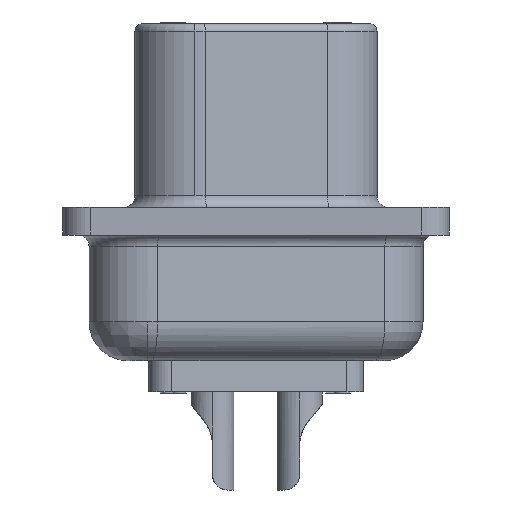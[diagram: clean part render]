
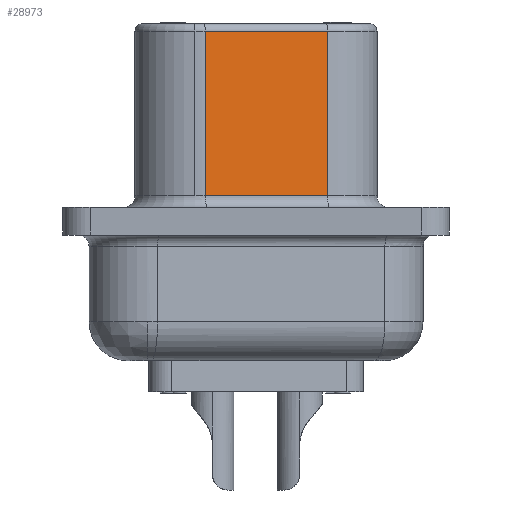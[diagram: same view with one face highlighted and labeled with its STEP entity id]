
A CAD part, left-side view. The second image highlights one B-rep face of the part: STEP entity #28973.
In plain terms, the highlighted planar face has unit normal (-0.985, -0.174, 0).
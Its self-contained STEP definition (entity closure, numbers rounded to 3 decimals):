
#3394 = VERTEX_POINT('',#3395);
#3395 = CARTESIAN_POINT('',(7.25,7.955,5.746));
#3410 = CYLINDRICAL_SURFACE('',#3411,1.956);
#3411 = AXIS2_PLACEMENT_3D('',#3412,#3413,#3414);
#3412 = CARTESIAN_POINT('',(9.176,8.294,6.));
#3413 = DIRECTION('',(-0.,-0.,-1.));
#3414 = DIRECTION('',(-1.,0.,0.));
#3437 = CYLINDRICAL_SURFACE('',#3438,0.254);
#3438 = AXIS2_PLACEMENT_3D('',#3439,#3440,#3441);
#3439 = CARTESIAN_POINT('',(8.203,4.01,5.746));
#3440 = DIRECTION('',(0.174,-0.985,0.));
#3441 = DIRECTION('',(0.985,0.174,0.));
#3598 = VERTEX_POINT('',#3599);
#3599 = CARTESIAN_POINT('',(7.25,7.955,0.381));
#3626 = EDGE_CURVE('',#3394,#3598,#3627,.T.);
#3627 = SURFACE_CURVE('',#3628,(#3632,#3639),.PCURVE_S1.);
#3628 = LINE('',#3629,#3630);
#3629 = CARTESIAN_POINT('',(7.25,7.955,6.));
#3630 = VECTOR('',#3631,1.);
#3631 = DIRECTION('',(-0.,-0.,-1.));
#3632 = PCURVE('',#3410,#3633);
#3633 = DEFINITIONAL_REPRESENTATION('',(#3634),#3638);
#3634 = LINE('',#3635,#3636);
#3635 = CARTESIAN_POINT('',(6.109,0.));
#3636 = VECTOR('',#3637,1.);
#3637 = DIRECTION('',(0.,1.));
#3638 = ( GEOMETRIC_REPRESENTATION_CONTEXT(2) 
PARAMETRIC_REPRESENTATION_CONTEXT() REPRESENTATION_CONTEXT('2D SPACE',''
  ) );
#3639 = PCURVE('',#3640,#3645);
#3640 = PLANE('',#3641);
#3641 = AXIS2_PLACEMENT_3D('',#3642,#3643,#3644);
#3642 = CARTESIAN_POINT('',(7.953,3.966,6.));
#3643 = DIRECTION('',(0.985,0.174,-0.));
#3644 = DIRECTION('',(-0.174,0.985,0.));
#3645 = DEFINITIONAL_REPRESENTATION('',(#3646),#3650);
#3646 = LINE('',#3647,#3648);
#3647 = CARTESIAN_POINT('',(4.05,0.));
#3648 = VECTOR('',#3649,1.);
#3649 = DIRECTION('',(0.,-1.));
#3650 = ( GEOMETRIC_REPRESENTATION_CONTEXT(2) 
PARAMETRIC_REPRESENTATION_CONTEXT() REPRESENTATION_CONTEXT('2D SPACE',''
  ) );
#27473 = CYLINDRICAL_SURFACE('',#27474,0.381);
#27474 = AXIS2_PLACEMENT_3D('',#27475,#27476,#27477);
#27475 = CARTESIAN_POINT('',(7.578,3.9,0.381));
#27476 = DIRECTION('',(0.174,-0.985,0.));
#27477 = DIRECTION('',(0.985,0.174,0.));
#28448 = EDGE_CURVE('',#28449,#28451,#28453,.T.);
#28449 = VERTEX_POINT('',#28450);
#28450 = CARTESIAN_POINT('',(7.953,3.966,5.746));
#28451 = VERTEX_POINT('',#28452);
#28452 = CARTESIAN_POINT('',(7.953,3.966,0.381));
#28453 = SURFACE_CURVE('',#28454,(#28458,#28470),.PCURVE_S1.);
#28454 = LINE('',#28455,#28456);
#28455 = CARTESIAN_POINT('',(7.953,3.966,6.));
#28456 = VECTOR('',#28457,1.);
#28457 = DIRECTION('',(-0.,-0.,-1.));
#28458 = PCURVE('',#28459,#28464);
#28459 = CYLINDRICAL_SURFACE('',#28460,1.956);
#28460 = AXIS2_PLACEMENT_3D('',#28461,#28462,#28463);
#28461 = CARTESIAN_POINT('',(9.879,4.306,6.));
#28462 = DIRECTION('',(-0.,-0.,-1.));
#28463 = DIRECTION('',(-1.,0.,0.));
#28464 = DEFINITIONAL_REPRESENTATION('',(#28465),#28469);
#28465 = LINE('',#28466,#28467);
#28466 = CARTESIAN_POINT('',(6.109,0.));
#28467 = VECTOR('',#28468,1.);
#28468 = DIRECTION('',(0.,1.));
#28469 = ( GEOMETRIC_REPRESENTATION_CONTEXT(2) 
PARAMETRIC_REPRESENTATION_CONTEXT() REPRESENTATION_CONTEXT('2D SPACE',''
  ) );
#28470 = PCURVE('',#3640,#28471);
#28471 = DEFINITIONAL_REPRESENTATION('',(#28472),#28476);
#28472 = LINE('',#28473,#28474);
#28473 = CARTESIAN_POINT('',(0.,0.));
#28474 = VECTOR('',#28475,1.);
#28475 = DIRECTION('',(0.,-1.));
#28476 = ( GEOMETRIC_REPRESENTATION_CONTEXT(2) 
PARAMETRIC_REPRESENTATION_CONTEXT() REPRESENTATION_CONTEXT('2D SPACE',''
  ) );
#28973 = ADVANCED_FACE('',(#28974),#3640,.F.);
#28974 = FACE_BOUND('',#28975,.T.);
#28975 = EDGE_LOOP('',(#28976,#28977,#28998,#28999));
#28976 = ORIENTED_EDGE('',*,*,#3626,.T.);
#28977 = ORIENTED_EDGE('',*,*,#28978,.T.);
#28978 = EDGE_CURVE('',#3598,#28451,#28979,.T.);
#28979 = SURFACE_CURVE('',#28980,(#28984,#28991),.PCURVE_S1.);
#28980 = LINE('',#28981,#28982);
#28981 = CARTESIAN_POINT('',(7.953,3.966,0.381));
#28982 = VECTOR('',#28983,1.);
#28983 = DIRECTION('',(0.174,-0.985,0.));
#28984 = PCURVE('',#3640,#28985);
#28985 = DEFINITIONAL_REPRESENTATION('',(#28986),#28990);
#28986 = LINE('',#28987,#28988);
#28987 = CARTESIAN_POINT('',(0.,-5.619));
#28988 = VECTOR('',#28989,1.);
#28989 = DIRECTION('',(-1.,0.));
#28990 = ( GEOMETRIC_REPRESENTATION_CONTEXT(2) 
PARAMETRIC_REPRESENTATION_CONTEXT() REPRESENTATION_CONTEXT('2D SPACE',''
  ) );
#28991 = PCURVE('',#27473,#28992);
#28992 = DEFINITIONAL_REPRESENTATION('',(#28993),#28997);
#28993 = LINE('',#28994,#28995);
#28994 = CARTESIAN_POINT('',(6.283,0.));
#28995 = VECTOR('',#28996,1.);
#28996 = DIRECTION('',(0.,1.));
#28997 = ( GEOMETRIC_REPRESENTATION_CONTEXT(2) 
PARAMETRIC_REPRESENTATION_CONTEXT() REPRESENTATION_CONTEXT('2D SPACE',''
  ) );
#28998 = ORIENTED_EDGE('',*,*,#28448,.F.);
#28999 = ORIENTED_EDGE('',*,*,#29000,.T.);
#29000 = EDGE_CURVE('',#28449,#3394,#29001,.T.);
#29001 = SURFACE_CURVE('',#29002,(#29006,#29013),.PCURVE_S1.);
#29002 = LINE('',#29003,#29004);
#29003 = CARTESIAN_POINT('',(7.953,3.966,5.746));
#29004 = VECTOR('',#29005,1.);
#29005 = DIRECTION('',(-0.174,0.985,-0.));
#29006 = PCURVE('',#3640,#29007);
#29007 = DEFINITIONAL_REPRESENTATION('',(#29008),#29012);
#29008 = LINE('',#29009,#29010);
#29009 = CARTESIAN_POINT('',(0.,-0.254));
#29010 = VECTOR('',#29011,1.);
#29011 = DIRECTION('',(1.,0.));
#29012 = ( GEOMETRIC_REPRESENTATION_CONTEXT(2) 
PARAMETRIC_REPRESENTATION_CONTEXT() REPRESENTATION_CONTEXT('2D SPACE',''
  ) );
#29013 = PCURVE('',#3437,#29014);
#29014 = DEFINITIONAL_REPRESENTATION('',(#29015),#29019);
#29015 = LINE('',#29016,#29017);
#29016 = CARTESIAN_POINT('',(3.142,0.));
#29017 = VECTOR('',#29018,1.);
#29018 = DIRECTION('',(0.,-1.));
#29019 = ( GEOMETRIC_REPRESENTATION_CONTEXT(2) 
PARAMETRIC_REPRESENTATION_CONTEXT() REPRESENTATION_CONTEXT('2D SPACE',''
  ) );
